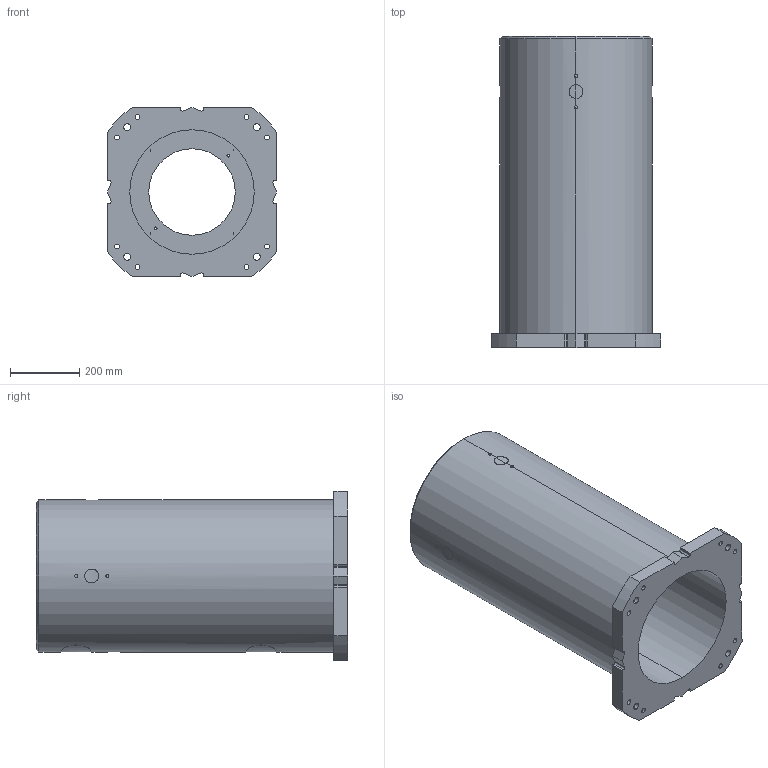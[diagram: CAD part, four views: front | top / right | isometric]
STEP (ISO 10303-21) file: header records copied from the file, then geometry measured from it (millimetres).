
FILE_DESCRIPTION (( 'STEP AP214' ), '1' );
FILE_NAME ('G-900.STEP', '2025-12-05T13:16:50', ( '' ), ( '' ), 'SwSTEP 2.0', 'SolidWorks 2022', '' );
FILE_SCHEMA (( 'AUTOMOTIVE_DESIGN' ));
Length unit declared in the file: millimetre
Products named in the file (1): G-900
Bounding box: 490 x 900 x 490 mm (x, y, z)
Volume: 50095457.7 mm3; surface area: 2650467.7 mm2
Topology: 1 solids, 1 shells, 175 faces, 457 edges, 292 vertices
Faces by surface type: cylinder 113, plane 28, bspline 24, cone 10
Entity records: 11182 total; most frequent: CARTESIAN_POINT 6367, ORIENTED_EDGE 898, DIRECTION 741, EDGE_CURVE 449, VERTEX_POINT 292, AXIS2_PLACEMENT_3D 278, EDGE_LOOP 221, VECTOR 185
